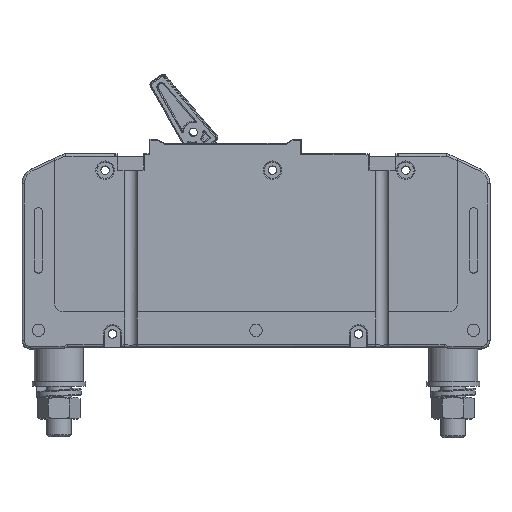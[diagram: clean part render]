
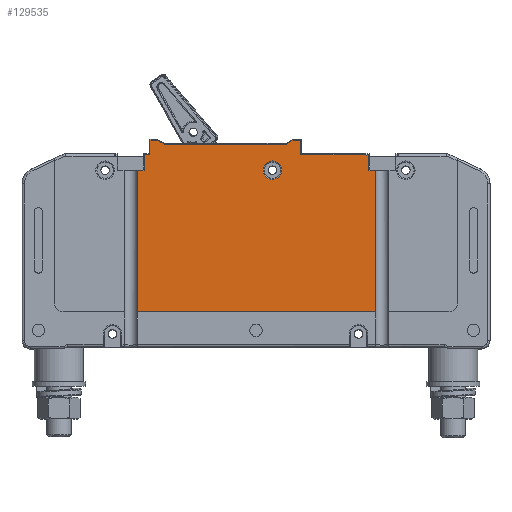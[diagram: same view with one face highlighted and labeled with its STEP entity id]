
A CAD part, top view. The second image highlights one B-rep face of the part: STEP entity #129535.
In plain terms, the highlighted planar face has unit normal (0, 0, 1).
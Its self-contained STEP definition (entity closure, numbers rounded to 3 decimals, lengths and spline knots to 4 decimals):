
#9163=DIRECTION('',(-1.,0.,0.));
#9164=VECTOR('',#9163,0.1004);
#9165=CARTESIAN_POINT('',(5.382,2.7156,2.25));
#9166=LINE('',#9165,#9164);
#9167=DIRECTION('',(0.,1.,0.));
#9168=VECTOR('',#9167,2.1536);
#9169=CARTESIAN_POINT('',(5.382,0.562,2.25));
#9170=LINE('',#9169,#9168);
#9171=DIRECTION('',(-1.,0.,0.));
#9172=VECTOR('',#9171,3.624);
#9173=CARTESIAN_POINT('',(5.382,0.562,2.25));
#9174=LINE('',#9173,#9172);
#9175=DIRECTION('',(0.,1.,0.));
#9176=VECTOR('',#9175,2.1536);
#9177=CARTESIAN_POINT('',(1.758,0.562,2.25));
#9178=LINE('',#9177,#9176);
#9179=DIRECTION('',(-1.,0.,0.));
#9180=VECTOR('',#9179,0.1004);
#9181=CARTESIAN_POINT('',(1.8584,2.7156,2.25));
#9182=LINE('',#9181,#9180);
#9183=DIRECTION('',(0.,1.,0.));
#9184=VECTOR('',#9183,0.218);
#9185=CARTESIAN_POINT('',(4.2398,2.9578,2.25));
#9186=LINE('',#9185,#9184);
#10082=DIRECTION('',(-1.,0.,0.));
#10083=VECTOR('',#10082,0.1121);
#10084=CARTESIAN_POINT('',(2.0603,3.1758,2.25));
#10085=LINE('',#10084,#10083);
#10123=DIRECTION('',(0.,-1.,0.));
#10124=VECTOR('',#10123,0.218);
#10125=CARTESIAN_POINT('',(1.9482,3.1758,2.25));
#10126=LINE('',#10125,#10124);
#10170=DIRECTION('',(-1.,0.,0.));
#10171=VECTOR('',#10170,0.0625);
#10172=CARTESIAN_POINT('',(1.9482,2.9578,2.25));
#10173=LINE('',#10172,#10171);
#10211=DIRECTION('',(-0.929,-0.371,0.));
#10212=VECTOR('',#10211,0.0245);
#10213=CARTESIAN_POINT('',(1.8857,2.9578,2.25));
#10214=LINE('',#10213,#10212);
#10252=DIRECTION('',(-1.,0.,0.));
#10253=VECTOR('',#10252,0.0045);
#10254=CARTESIAN_POINT('',(1.8629,2.9487,2.25));
#10255=LINE('',#10254,#10253);
#10270=DIRECTION('',(0.,-1.,0.));
#10271=VECTOR('',#10270,0.2331);
#10272=CARTESIAN_POINT('',(1.8584,2.9487,2.25));
#10273=LINE('',#10272,#10271);
#18826=DIRECTION('',(0.,1.,0.));
#18827=VECTOR('',#18826,0.2331);
#18828=CARTESIAN_POINT('',(5.2816,2.7156,2.25));
#18829=LINE('',#18828,#18827);
#18830=DIRECTION('',(-1.,0.,0.));
#18831=VECTOR('',#18830,0.0295);
#18832=CARTESIAN_POINT('',(5.2816,2.9487,2.25));
#18833=LINE('',#18832,#18831);
#18848=DIRECTION('',(-0.929,0.371,0.));
#18849=VECTOR('',#18848,0.0245);
#18850=CARTESIAN_POINT('',(5.2521,2.9487,2.25));
#18851=LINE('',#18850,#18849);
#18889=DIRECTION('',(-1.,0.,0.));
#18890=VECTOR('',#18889,0.9895);
#18891=CARTESIAN_POINT('',(5.2293,2.9578,2.25));
#18892=LINE('',#18891,#18890);
#93395=CARTESIAN_POINT('',(3.812,2.718,2.25));
#93396=DIRECTION('',(0.,0.,-1.));
#93397=DIRECTION('',(-1.,0.,0.));
#93398=AXIS2_PLACEMENT_3D('',#93395,#93396,#93397);
#93410=CARTESIAN_POINT('',(3.812,2.718,2.25));
#93411=DIRECTION('',(0.,0.,-1.));
#93412=DIRECTION('',(1.,0.,0.));
#93413=AXIS2_PLACEMENT_3D('',#93410,#93411,#93412);
#103874=DIRECTION('',(-0.866,0.5,0.));
#103875=VECTOR('',#103874,0.12);
#103876=CARTESIAN_POINT('',(2.1642,3.1158,2.25));
#103877=LINE('',#103876,#103875);
#103931=DIRECTION('',(-1.,0.,0.));
#103932=VECTOR('',#103931,1.8596);
#103933=CARTESIAN_POINT('',(4.0238,3.1158,2.25));
#103934=LINE('',#103933,#103932);
#103972=DIRECTION('',(-0.866,-0.5,0.));
#103973=VECTOR('',#103972,0.12);
#103974=CARTESIAN_POINT('',(4.1277,3.1758,2.25));
#103975=LINE('',#103974,#103973);
#104025=DIRECTION('',(-1.,0.,0.));
#104026=VECTOR('',#104025,0.1121);
#104027=CARTESIAN_POINT('',(4.2398,3.1758,2.25));
#104028=LINE('',#104027,#104026);
#116051=CARTESIAN_POINT('',(5.382,0.562,2.25));
#116052=CARTESIAN_POINT('',(1.758,0.562,2.25));
#116053=VERTEX_POINT('',#116051);
#116054=VERTEX_POINT('',#116052);
#116942=CARTESIAN_POINT('',(3.6709,2.718,2.25));
#116943=CARTESIAN_POINT('',(3.9531,2.718,2.25));
#116944=VERTEX_POINT('',#116942);
#116945=VERTEX_POINT('',#116943);
#117436=CARTESIAN_POINT('',(5.382,2.7156,2.25));
#117437=CARTESIAN_POINT('',(5.2816,2.7156,2.25));
#117438=VERTEX_POINT('',#117436);
#117439=VERTEX_POINT('',#117437);
#117440=CARTESIAN_POINT('',(1.8584,2.7156,2.25));
#117441=CARTESIAN_POINT('',(1.758,2.7156,2.25));
#117442=VERTEX_POINT('',#117440);
#117443=VERTEX_POINT('',#117441);
#117456=CARTESIAN_POINT('',(4.2398,2.9578,2.25));
#117457=CARTESIAN_POINT('',(4.2398,3.1758,2.25));
#117458=VERTEX_POINT('',#117456);
#117459=VERTEX_POINT('',#117457);
#117462=CARTESIAN_POINT('',(5.2293,2.9578,2.25));
#117463=VERTEX_POINT('',#117462);
#117466=CARTESIAN_POINT('',(5.2521,2.9487,2.25));
#117467=VERTEX_POINT('',#117466);
#117470=CARTESIAN_POINT('',(5.2816,2.9487,2.25));
#117471=VERTEX_POINT('',#117470);
#117474=CARTESIAN_POINT('',(4.1277,3.1758,2.25));
#117475=VERTEX_POINT('',#117474);
#117478=CARTESIAN_POINT('',(4.0238,3.1158,2.25));
#117479=VERTEX_POINT('',#117478);
#117482=CARTESIAN_POINT('',(2.1642,3.1158,2.25));
#117483=VERTEX_POINT('',#117482);
#117486=CARTESIAN_POINT('',(2.0603,3.1758,2.25));
#117487=VERTEX_POINT('',#117486);
#117490=CARTESIAN_POINT('',(1.9482,3.1758,2.25));
#117491=VERTEX_POINT('',#117490);
#117500=CARTESIAN_POINT('',(1.9482,2.9578,2.25));
#117501=VERTEX_POINT('',#117500);
#117504=CARTESIAN_POINT('',(1.8857,2.9578,2.25));
#117505=VERTEX_POINT('',#117504);
#117508=CARTESIAN_POINT('',(1.8629,2.9487,2.25));
#117509=VERTEX_POINT('',#117508);
#117512=CARTESIAN_POINT('',(1.8584,2.9487,2.25));
#117513=VERTEX_POINT('',#117512);
#129485=CARTESIAN_POINT('',(0.,0.,2.25));
#129486=DIRECTION('',(0.,0.,1.));
#129487=DIRECTION('',(1.,0.,0.));
#129488=AXIS2_PLACEMENT_3D('',#129485,#129486,#129487);
#129489=PLANE('',#129488);
#129491=ORIENTED_EDGE('',*,*,#129490,.F.);
#129493=ORIENTED_EDGE('',*,*,#129492,.F.);
#129495=ORIENTED_EDGE('',*,*,#129494,.F.);
#129497=ORIENTED_EDGE('',*,*,#129496,.F.);
#129499=ORIENTED_EDGE('',*,*,#129498,.F.);
#129500=ORIENTED_EDGE('',*,*,#129474,.F.);
#129501=ORIENTED_EDGE('',*,*,#126809,.F.);
#129503=ORIENTED_EDGE('',*,*,#129502,.T.);
#129504=ORIENTED_EDGE('',*,*,#126863,.T.);
#129506=ORIENTED_EDGE('',*,*,#129505,.F.);
#129508=ORIENTED_EDGE('',*,*,#129507,.F.);
#129510=ORIENTED_EDGE('',*,*,#129509,.F.);
#129512=ORIENTED_EDGE('',*,*,#129511,.F.);
#129514=ORIENTED_EDGE('',*,*,#129513,.F.);
#129516=ORIENTED_EDGE('',*,*,#129515,.F.);
#129518=ORIENTED_EDGE('',*,*,#129517,.F.);
#129520=ORIENTED_EDGE('',*,*,#129519,.F.);
#129522=ORIENTED_EDGE('',*,*,#129521,.F.);
#129524=ORIENTED_EDGE('',*,*,#129523,.F.);
#129526=ORIENTED_EDGE('',*,*,#129525,.F.);
#129527=EDGE_LOOP('',(#129491,#129493,#129495,#129497,#129499,#129500,#129501,
#129503,#129504,#129506,#129508,#129510,#129512,#129514,#129516,#129518,#129520,
#129522,#129524,#129526));
#129528=FACE_OUTER_BOUND('',#129527,.F.);
#129530=ORIENTED_EDGE('',*,*,#129529,.F.);
#129532=ORIENTED_EDGE('',*,*,#129531,.F.);
#129533=EDGE_LOOP('',(#129530,#129532));
#129534=FACE_BOUND('',#129533,.F.);
#93399=CIRCLE('',#93398,0.1411);
#93414=CIRCLE('',#93413,0.1411);
#126809=EDGE_CURVE('',#116053,#117438,#9170,.T.);
#126863=EDGE_CURVE('',#116054,#117443,#9178,.T.);
#129474=EDGE_CURVE('',#117438,#117439,#9166,.T.);
#129490=EDGE_CURVE('',#117458,#117459,#9186,.T.);
#129492=EDGE_CURVE('',#117463,#117458,#18892,.T.);
#129494=EDGE_CURVE('',#117467,#117463,#18851,.T.);
#129496=EDGE_CURVE('',#117471,#117467,#18833,.T.);
#129498=EDGE_CURVE('',#117439,#117471,#18829,.T.);
#129502=EDGE_CURVE('',#116053,#116054,#9174,.T.);
#129505=EDGE_CURVE('',#117442,#117443,#9182,.T.);
#129507=EDGE_CURVE('',#117513,#117442,#10273,.T.);
#129509=EDGE_CURVE('',#117509,#117513,#10255,.T.);
#129511=EDGE_CURVE('',#117505,#117509,#10214,.T.);
#129513=EDGE_CURVE('',#117501,#117505,#10173,.T.);
#129515=EDGE_CURVE('',#117491,#117501,#10126,.T.);
#129517=EDGE_CURVE('',#117487,#117491,#10085,.T.);
#129519=EDGE_CURVE('',#117483,#117487,#103877,.T.);
#129521=EDGE_CURVE('',#117479,#117483,#103934,.T.);
#129523=EDGE_CURVE('',#117475,#117479,#103975,.T.);
#129525=EDGE_CURVE('',#117459,#117475,#104028,.T.);
#129529=EDGE_CURVE('',#116944,#116945,#93399,.T.);
#129531=EDGE_CURVE('',#116945,#116944,#93414,.T.);
#129535=ADVANCED_FACE('',(#129528,#129534),#129489,.T.);
